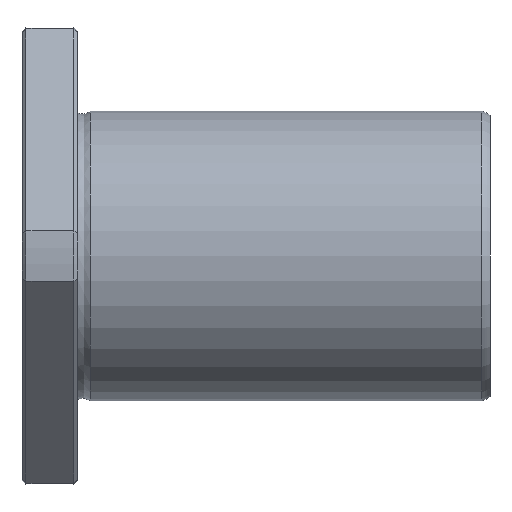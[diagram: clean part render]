
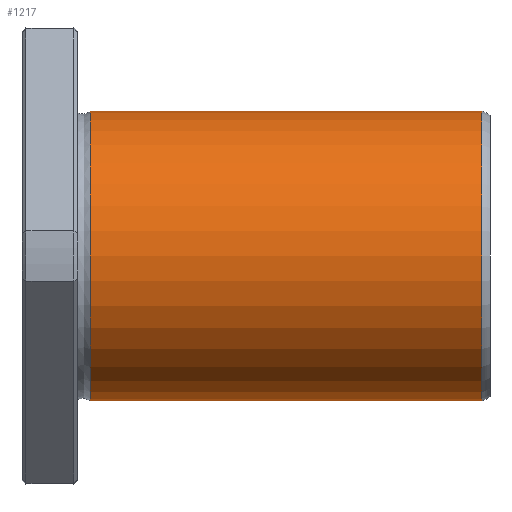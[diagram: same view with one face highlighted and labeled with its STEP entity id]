
A CAD part, front view. The second image highlights one B-rep face of the part: STEP entity #1217.
In plain terms, the highlighted cylindrical face has radius 26 mm (diameter 52 mm), a full revolution.
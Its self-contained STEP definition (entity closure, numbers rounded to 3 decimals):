
#1183=CARTESIAN_POINT('',(82.502,0.0,26.));
#1184=VERTEX_POINT('',#1183);
#1185=CARTESIAN_POINT('',(82.502,0.0,0.0));
#1186=DIRECTION('',(-1.0,0.0,0.0));
#1187=DIRECTION('',(0.0,0.0,1.0));
#1188=AXIS2_PLACEMENT_3D('',#1185,#1186,#1187);
#1189=CIRCLE('',#1188,26.);
#1190=EDGE_CURVE('',#1184,#1184,#1189,.T.);
#1198=CARTESIAN_POINT('',(47.362,0.0,0.0));
#1199=DIRECTION('',(-1.0,0.0,0.0));
#1200=DIRECTION('',(0.0,0.0,1.0));
#1201=AXIS2_PLACEMENT_3D('',#1198,#1199,#1200);
#1202=CYLINDRICAL_SURFACE('',#1201,26.);
#1203=CARTESIAN_POINT('',(12.223,0.0,26.0));
#1204=VERTEX_POINT('',#1203);
#1205=CARTESIAN_POINT('',(12.223,0.0,0.0));
#1206=DIRECTION('',(-1.0,0.0,0.0));
#1207=DIRECTION('',(0.0,0.0,1.0));
#1208=AXIS2_PLACEMENT_3D('',#1205,#1206,#1207);
#1209=CIRCLE('',#1208,26.0);
#1210=EDGE_CURVE('',#1204,#1204,#1209,.T.);
#1211=ORIENTED_EDGE('',*,*,#1210,.F.);
#1212=EDGE_LOOP('',(#1211));
#1213=FACE_OUTER_BOUND('',#1212,.T.);
#1214=ORIENTED_EDGE('',*,*,#1190,.T.);
#1215=EDGE_LOOP('',(#1214));
#1216=FACE_BOUND('',#1215,.T.);
#1217=ADVANCED_FACE('',(#1213,#1216),#1202,.T.);
